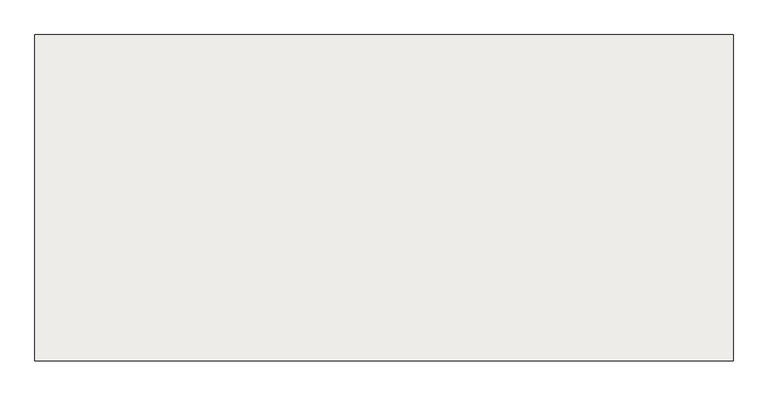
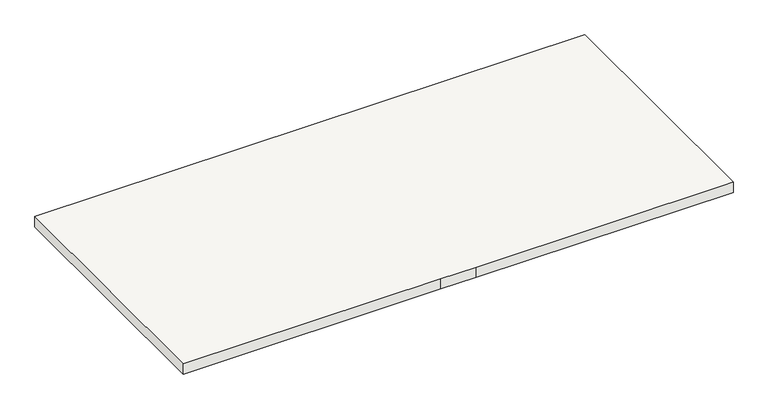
"""IFC4 building model written with IfcOpenShell, lengths in millimetres: slab geometry, Landing_Non-Monolithic_SameAsRun_Generic."""

import ifcopenshell
import ifcopenshell.guid

model = None  # the IFC model being written
_history = None  # IfcOwnerHistory: only IFC2X3 demands one
_inside = {}  # id of a spatial element -> (the spatial element, [elements in it])
_under = {}  # id of a project, library or spatial element -> (it, [spatial elements below it])
_declared = {}  # id of a project -> (the project, [libraries it declares])
_typed = {}  # id of a type object -> (the type object, [elements of that type])
_made_of = {}  # id of a material, layer set ... -> (it, [elements and type objects made of it])


def new_model(schema):
    """Start an empty IFC model of exactly this schema.

    Asked for "IFC4X3", IfcOpenShell would pick the latest addendum, in which some entities
    have other attributes; the version numbers below select the first issue.
    IFC2X3 requires an IfcOwnerHistory on every rooted entity: one is made here for all.
    """
    global model, _history
    if schema == "IFC4X3":
        model = ifcopenshell.file(schema_version=(4, 3, 0, 0))
    else:
        model = ifcopenshell.file(schema=schema)
    _inside.clear()
    _under.clear()
    _declared.clear()
    _typed.clear()
    _made_of.clear()
    _history = None
    if model.schema == "IFC2X3":
        org = make("IfcOrganization", Name="unknown")
        user = make(
            "IfcPersonAndOrganization",
            ThePerson=make("IfcPerson", FamilyName="unknown"),
            TheOrganization=org,
        )
        app = make(
            "IfcApplication",
            ApplicationDeveloper=org,
            Version="unknown",
            ApplicationFullName="unknown",
            ApplicationIdentifier="unknown",
        )
        _history = make(
            "IfcOwnerHistory",
            OwningUser=user,
            OwningApplication=app,
            ChangeAction="ADDED",
            CreationDate=0,
        )
    return model


def make(cls, **values):
    """One entity of the class cls with the attributes given. An attribute that is None is left unset."""
    return model.create_entity(
        cls, **{name: value for name, value in values.items() if value is not None}
    )


def rooted(cls, **values):
    """An entity with a GlobalId (a new one), such as an element, a storey or a relation."""
    return make(cls, GlobalId=ifcopenshell.guid.new(), OwnerHistory=_history, **values)


def si_unit(unit_type, name, prefix=None):
    """IfcSIUnit, for example si_unit("LENGTHUNIT", "METRE", prefix="MILLI")."""
    return make("IfcSIUnit", UnitType=unit_type, Prefix=prefix, Name=name)


def assignment(units):
    """IfcUnitAssignment: the units of a project."""
    return None if units is None else make("IfcUnitAssignment", Units=units)


def point(xyz):
    """IfcCartesianPoint."""
    return None if xyz is None else make("IfcCartesianPoint", Coordinates=xyz)


def direction(xyz):
    """IfcDirection."""
    return None if xyz is None else make("IfcDirection", DirectionRatios=xyz)


def frame(location, z_axis=None, x_axis=None):
    """IfcAxis2Placement3D, a coordinate frame: its origin and axes. An axis left out is left unset."""
    return make(
        "IfcAxis2Placement3D",
        Location=point(location),
        Axis=direction(z_axis),
        RefDirection=direction(x_axis),
    )


def origin():
    """The frame at (0, 0, 0) with its axes left unset."""
    return frame((0.0, 0.0, 0.0))


def place(relative_to, where):
    """IfcLocalPlacement: puts the frame where relative to a parent placement (None: the world)."""
    return make(
        "IfcLocalPlacement", PlacementRelTo=relative_to, RelativePlacement=where
    )


def context(
    kind, dimensions, precision=None, world=None, true_north=None, identifier=None
):
    """IfcGeometricRepresentationContext, for example the 3D "Model" context."""
    return make(
        "IfcGeometricRepresentationContext",
        ContextIdentifier=identifier,
        ContextType=kind,
        CoordinateSpaceDimension=dimensions,
        Precision=precision,
        WorldCoordinateSystem=world,
        TrueNorth=true_north,
    )


def project(units=None, contexts=None):
    """IfcProject with its units and contexts."""
    return rooted(
        "IfcProject",
        Name="project",
        RepresentationContexts=contexts,
        UnitsInContext=assignment(units),
    )


def spatial(cls, under=None, at=None, **own):
    """A site, building, storey or space (cls), placed at a placement, below another one or the project."""
    s = rooted(cls, ObjectPlacement=at, **own)
    if under is not None:
        _under.setdefault(under.id(), (under, []))[1].append(s)
    return s


def polyline(points):
    """IfcPolyline through the points."""
    return make("IfcPolyline", Points=[point(p) for p in points])


def outline(outer, holes=None, kind="AREA"):
    """IfcArbitraryClosedProfileDef: a profile drawn as a closed curve; with holes, ...WithVoids."""
    if holes is None:
        return make("IfcArbitraryClosedProfileDef", ProfileType=kind, OuterCurve=outer)
    return make(
        "IfcArbitraryProfileDefWithVoids",
        ProfileType=kind,
        OuterCurve=outer,
        InnerCurves=holes,
    )


def extrude(swept, where, along, depth):
    """IfcExtrudedAreaSolid: the profile swept, set in the frame where, extruded along a direction by depth."""
    return make(
        "IfcExtrudedAreaSolid",
        SweptArea=swept,
        Position=where,
        ExtrudedDirection=direction(along),
        Depth=depth,
    )


def shape(context_of_items, identifier, shape_type, items):
    """IfcShapeRepresentation: the items that make up one representation, for example the "Body"."""
    return make(
        "IfcShapeRepresentation",
        ContextOfItems=context_of_items,
        RepresentationIdentifier=identifier,
        RepresentationType=shape_type,
        Items=items,
    )


def source(mapping_origin, context_of_items, identifier, shape_type, items):
    """IfcRepresentationMap: a shape defined once, which mapped items show again and again."""
    return make(
        "IfcRepresentationMap",
        MappingOrigin=mapping_origin,
        MappedRepresentation=shape(context_of_items, identifier, shape_type, items),
    )


def transform(
    local_origin,
    x_axis=None,
    y_axis=None,
    z_axis=None,
    scale=None,
    scale2=None,
    scale3=None,
    uniform=True,
):
    """IfcCartesianTransformationOperator3D, or its non-uniform kind. x_axis, y_axis, z_axis: its Axis1, 2, 3."""
    if uniform:
        return make(
            "IfcCartesianTransformationOperator3D",
            Axis1=direction(x_axis),
            Axis2=direction(y_axis),
            LocalOrigin=point(local_origin),
            Scale=scale,
            Axis3=direction(z_axis),
        )
    return make(
        "IfcCartesianTransformationOperator3DnonUniform",
        Axis1=direction(x_axis),
        Axis2=direction(y_axis),
        LocalOrigin=point(local_origin),
        Scale=scale,
        Axis3=direction(z_axis),
        Scale2=scale2,
        Scale3=scale3,
    )


def mapped(mapping_source, mapping_target):
    """IfcMappedItem: shows the shape of a source again, moved by a transform."""
    return make(
        "IfcMappedItem", MappingSource=mapping_source, MappingTarget=mapping_target
    )


def made_of(thing, what):
    """Note that an element or type object is made of a material, layer set ...; save() writes the relation."""
    if what is not None:
        _made_of.setdefault(what.id(), (what, []))[1].append(thing)
    return thing


def element(
    cls,
    number,
    at=None,
    inside=None,
    cuts=None,
    type_object=None,
    material=None,
    context=None,
    identifier="Body",
    shape_type=None,
    held_by="IfcProductDefinitionShape",
    body=None,
    shapes=None,
    **own,
):
    """One element of the class cls, such as IfcWall. Its Tag is "e" and its number.

    at: its placement. inside: the storey or other place that contains it. cuts: it is an
    opening in that element (IfcRelVoidsElement). A single representation is given by context,
    identifier, shape_type and body (its items); several are given by shapes. held_by: the class
    of the entity that holds the representations. save() writes the other relations.
    """
    e = rooted(cls, Tag="e%d" % number, ObjectPlacement=at, **own)
    if body is not None:
        shapes = [shape(context, identifier, shape_type, body)]
    if shapes is not None:
        e.Representation = make(held_by, Representations=shapes)
    if inside is not None:
        _inside.setdefault(inside.id(), (inside, []))[1].append(e)
    if cuts is not None:
        rooted(
            "IfcRelVoidsElement", RelatingBuildingElement=cuts, RelatedOpeningElement=e
        )
    if type_object is not None:
        _typed.setdefault(type_object.id(), (type_object, []))[1].append(e)
    return made_of(e, material)


def aggregate(whole, parts):
    """IfcRelAggregates: a whole, such as a stair, and the parts it consists of."""
    return rooted("IfcRelAggregates", RelatingObject=whole, RelatedObjects=parts)


def save(model, path):
    """Write the relations noted so far, then the file.

    IfcRelAggregates (storeys below a building ...), IfcRelContainedInSpatialStructure (elements
    in a storey), IfcRelDefinesByType, IfcRelAssociatesMaterial and IfcRelDeclares: one each for
    every whole, place, type object, material and project.
    """
    for whole, parts in _under.values():
        aggregate(whole, parts)
    for where, things in _inside.values():
        rooted(
            "IfcRelContainedInSpatialStructure",
            RelatedElements=things,
            RelatingStructure=where,
        )
    for kind, things in _typed.values():
        rooted("IfcRelDefinesByType", RelatedObjects=things, RelatingType=kind)
    for what, things in _made_of.values():
        rooted("IfcRelAssociatesMaterial", RelatedObjects=things, RelatingMaterial=what)
    for by, libraries in _declared.values():
        rooted("IfcRelDeclares", RelatingContext=by, RelatedDefinitions=libraries)
    model.write(path)


def slab_eed05af2(model_context):
    return source(origin(), model_context, "Body", "SweptSolid", [
        extrude(outline(polyline([(443147.3206883, -382775.0026386), (443147.3206883, -381575.0026386), (445713.3206883, -381575.0026386), (445713.3206883, -382775.0026386), (444513.3206883, -382775.0026386), (444347.3206883, -382775.0026386), (443147.3206883, -382775.0026386)])), frame((0.0, 0.0, 2200.0), z_axis=(0.0, 0.0, 1.0), x_axis=(1.0, 0.0, 0.0)), (0.0, 0.0, 1.0), 50.0),
    ])


if __name__ == "__main__":
    model = new_model("IFC4")
    model_context = context("Model", 3, world=origin())
    ifc_project = project(units=[si_unit("LENGTHUNIT", "METRE", prefix="MILLI")], contexts=[model_context])
    site = spatial("IfcSite", under=ifc_project)
    building = spatial("IfcBuilding", under=site)
    placement = place(None, origin())
    slab_shape = slab_eed05af2(model_context)
    element("IfcSlab", 1, ObjectType="Landing_Non-Monolithic_SameAsRun_Generic", at=placement, inside=building, context=model_context, shape_type="MappedRepresentation", body=[
        mapped(slab_shape, transform((0.0, 0.0, 0.0), x_axis=(1.0, 0.0, 0.0), y_axis=(0.0, 1.0, 0.0), z_axis=(0.0, 0.0, 1.0))),
    ])
    save(model, "model.ifc")
